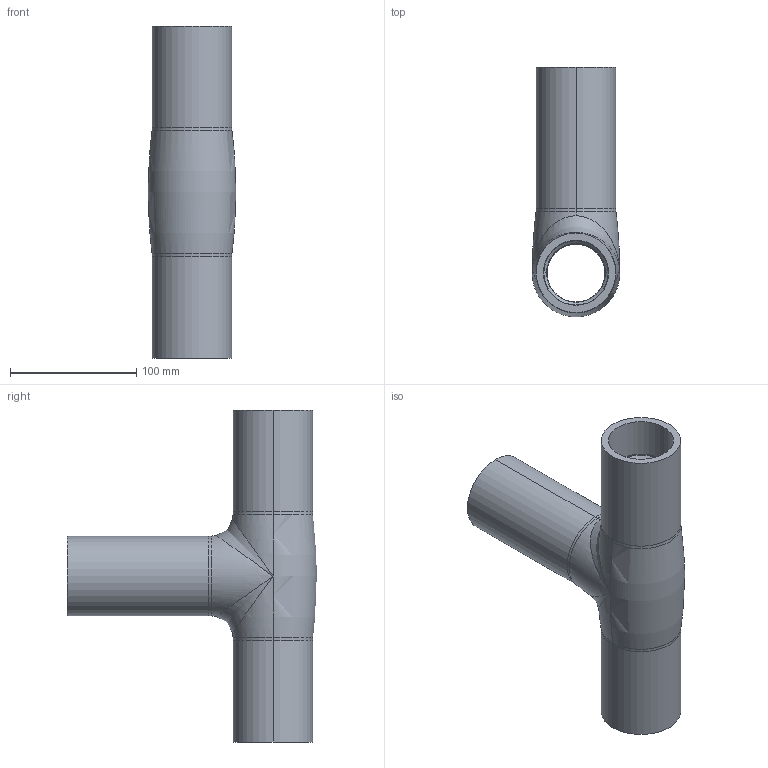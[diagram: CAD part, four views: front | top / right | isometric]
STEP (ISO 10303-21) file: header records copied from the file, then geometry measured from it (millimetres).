
FILE_DESCRIPTION (( 'STEP AP203' ), '1' );
FILE_NAME ('KP_8-63FC02.step', '2011-08-08T11:38:25', ( '' ), ( '' ), 'SwSTEP 2.0', 'SolidWorks 2011', '' );
FILE_SCHEMA (( 'CONFIG_CONTROL_DESIGN' ));
Length unit declared in the file: millimetre
Products named in the file (1): KP_8-63FC02
Bounding box: 69.27 x 197.62 x 263 mm (x, y, z)
Volume: 566209.1 mm3; surface area: 144965.7 mm2
Topology: 1 solids, 4 shells, 87 faces, 182 edges, 98 vertices
Faces by surface type: torus 47, cylinder 23, plane 9, cone 6, bspline 2
Entity records: 3075 total; most frequent: CARTESIAN_POINT 1086, DIRECTION 478, ORIENTED_EDGE 356, AXIS2_PLACEMENT_3D 224, EDGE_CURVE 178, CIRCLE 138, VERTEX_POINT 98, EDGE_LOOP 96
